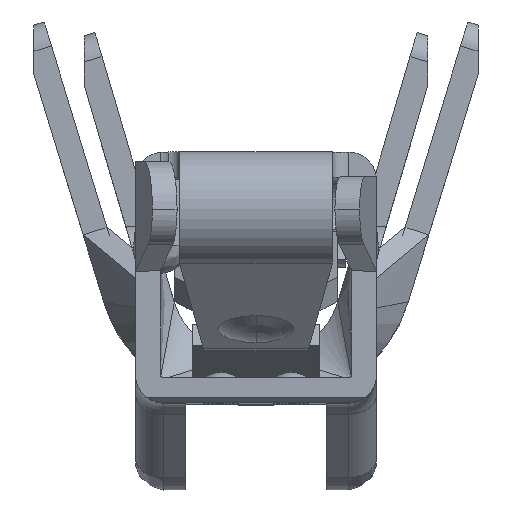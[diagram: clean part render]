
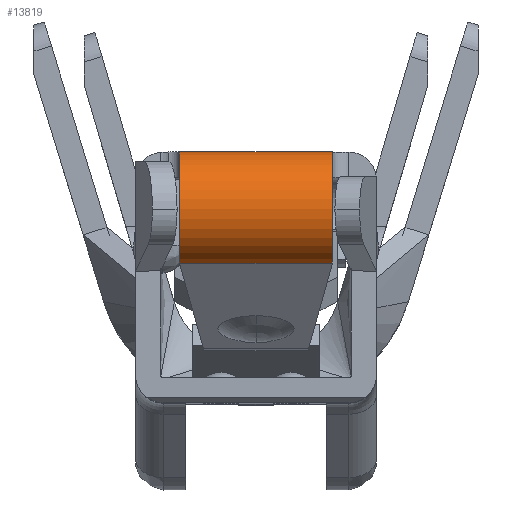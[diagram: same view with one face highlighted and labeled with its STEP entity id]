
A CAD part, top view. The second image highlights one B-rep face of the part: STEP entity #13819.
In plain terms, the highlighted cylindrical face has radius 0.58 mm (diameter 1.16 mm), a partial arc.
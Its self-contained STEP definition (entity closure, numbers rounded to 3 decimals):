
#1534=DIRECTION('',(1.,0.,0.));
#1535=VECTOR('',#1534,1.55);
#1536=CARTESIAN_POINT('',(-0.775,0.,0.));
#1537=LINE('',#1536,#1535);
#4318=CARTESIAN_POINT('',(0.775,-0.58,0.));
#4319=DIRECTION('',(1.,0.,0.));
#4320=DIRECTION('',(0.,1.,0.));
#4321=AXIS2_PLACEMENT_3D('',#4318,#4319,#4320);
#4340=DIRECTION('',(1.,0.,0.));
#4341=VECTOR('',#4340,1.55);
#4342=CARTESIAN_POINT('',(-0.775,-1.126,0.196));
#4343=LINE('',#4342,#4341);
#4438=CARTESIAN_POINT('',(-0.775,-0.58,0.));
#4439=DIRECTION('',(1.,0.,0.));
#4440=DIRECTION('',(0.,1.,0.));
#4441=AXIS2_PLACEMENT_3D('',#4438,#4439,#4440);
#6455=CARTESIAN_POINT('',(-0.775,0.,0.));
#6456=CARTESIAN_POINT('',(0.775,0.,0.));
#6457=VERTEX_POINT('',#6455);
#6458=VERTEX_POINT('',#6456);
#6497=CARTESIAN_POINT('',(-0.775,-1.126,0.196));
#6498=CARTESIAN_POINT('',(0.775,-1.126,0.196));
#6499=VERTEX_POINT('',#6497);
#6500=VERTEX_POINT('',#6498);
#13806=CARTESIAN_POINT('',(-0.775,-0.58,0.));
#13807=DIRECTION('',(1.,0.,0.));
#13808=DIRECTION('',(0.,0.,-1.));
#13809=AXIS2_PLACEMENT_3D('',#13806,#13807,#13808);
#13810=CYLINDRICAL_SURFACE('',#13809,0.58);
#13812=ORIENTED_EDGE('',*,*,#13811,.F.);
#13814=ORIENTED_EDGE('',*,*,#13813,.F.);
#13815=ORIENTED_EDGE('',*,*,#9785,.T.);
#13816=ORIENTED_EDGE('',*,*,#13793,.T.);
#13817=EDGE_LOOP('',(#13812,#13814,#13815,#13816));
#13818=FACE_OUTER_BOUND('',#13817,.F.);
#13819=ADVANCED_FACE('',(#13818),#13810,.T.);
#4322=CIRCLE('',#4321,0.58);
#4442=CIRCLE('',#4441,0.58);
#9785=EDGE_CURVE('',#6457,#6458,#1537,.T.);
#13793=EDGE_CURVE('',#6458,#6500,#4322,.T.);
#13811=EDGE_CURVE('',#6499,#6500,#4343,.T.);
#13813=EDGE_CURVE('',#6457,#6499,#4442,.T.);
